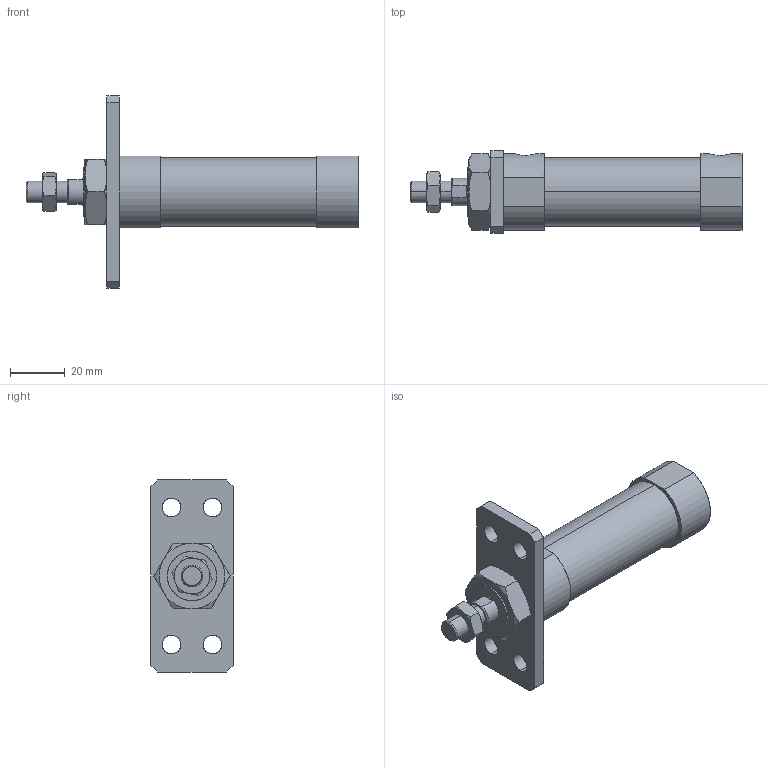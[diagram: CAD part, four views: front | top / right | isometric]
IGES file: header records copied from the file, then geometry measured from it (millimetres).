
Start section: SolidWorks IGES file using analytic representation for surfaces
Global section: file name: C:\Users\Toshiba\Desktop\JGND2-20-25-A.IGS; native system: SolidWorks 2014; preprocessor: SolidWorks 2014; author: Toshiba; date: 160804.102103; units: millimetre
Bounding box: 121 x 30 x 70 mm (x, y, z)
Surface area: 17526.6 mm2 (no closed solid volume)
Topology: 0 solids, 0 shells, 104 faces, 1876 edges, 1876 vertices
Faces by surface type: bspline 68, revolution 36
